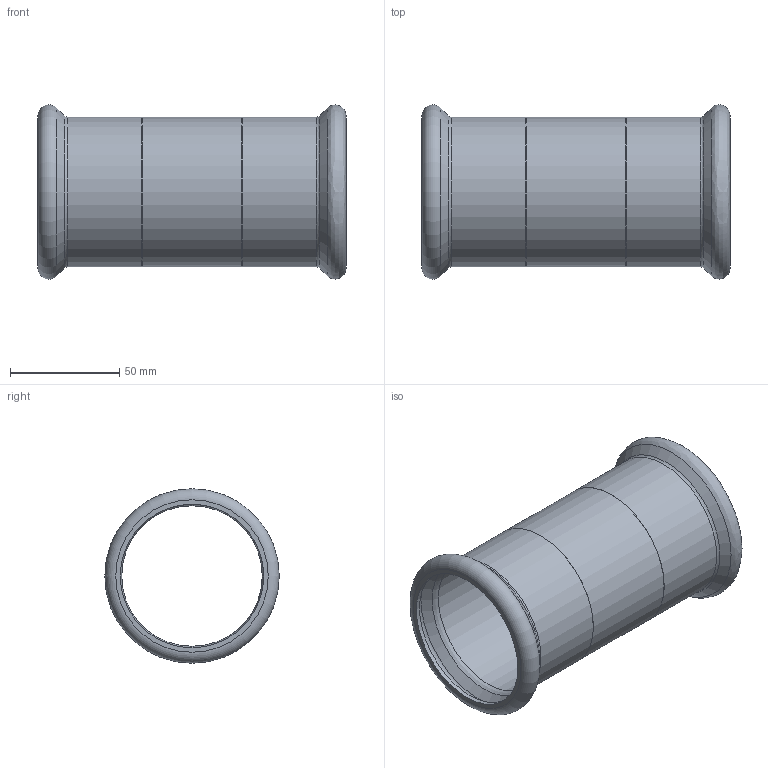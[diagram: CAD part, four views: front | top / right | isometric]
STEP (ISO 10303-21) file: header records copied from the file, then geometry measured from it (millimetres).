
FILE_DESCRIPTION((''),'2;1');
FILE_NAME('G:\Nirosan-Schmiedefeld\Technics\CAD\Bauteile VA\064\69270S64(0).stp','2009-05-08T09:58:32',('herberg'),(''),'Autodesk Inventor 2009','Autodesk Inventor 2009','');
FILE_SCHEMA(('AUTOMOTIVE_DESIGN { 1 0 10303 214 1 1 1 1 }'));
Length unit declared in the file: millimetre
Products named in the file (1): 69270S64(0)
Bounding box: 141 x 79.8 x 79.8 mm (x, y, z)
Volume: 64769.3 mm3; surface area: 65644.6 mm2
Topology: 1 solids, 1 shells, 28 faces, 54 edges, 30 vertices
Faces by surface type: bspline 15, cylinder 5, cone 4, plane 2, torus 2
Full cylindrical faces by diameter (mm): 64.3 x1, 64.4 x1, 65.7 x1, 68.3 x1, 68.4 x1
Entity records: 961 total; most frequent: CARTESIAN_POINT 510, DIRECTION 84, ORIENTED_EDGE 56, EDGE_LOOP 56, AXIS2_PLACEMENT_3D 42, VERTEX_POINT 28, CIRCLE 28, EDGE_CURVE 28
